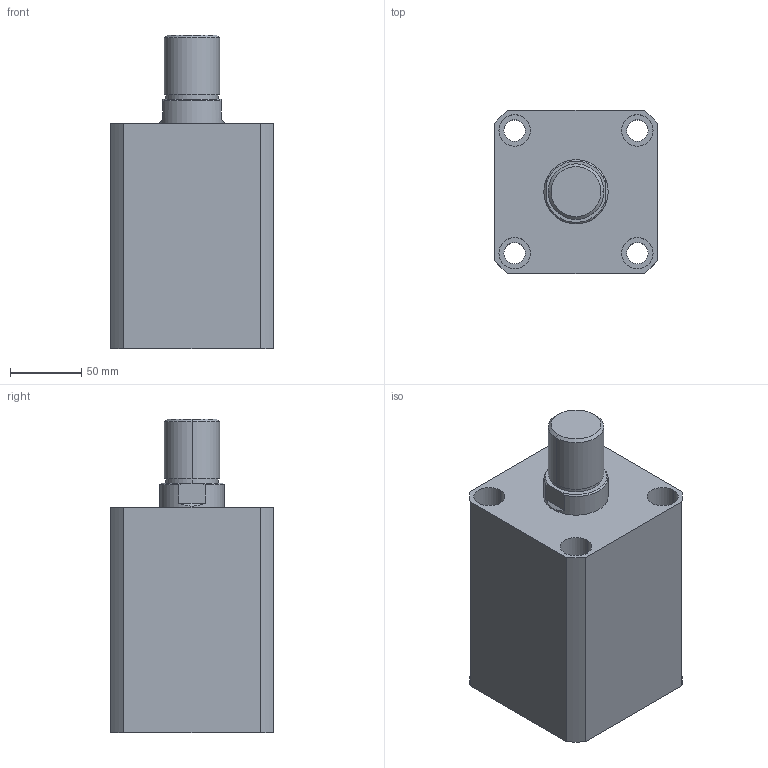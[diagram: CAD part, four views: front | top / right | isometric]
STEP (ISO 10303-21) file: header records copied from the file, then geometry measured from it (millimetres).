
FILE_DESCRIPTION (( 'STEP AP203' ), '1' );
FILE_NAME ('HTB-SDMB80-80W.STEP', '2019-10-09T06:11:59', ( '微软用户' ), ( '微软中国' ), 'SwSTEP 2.0', 'SolidWorks 2012', '' );
FILE_SCHEMA (( 'CONFIG_CONTROL_DESIGN' ));
Length unit declared in the file: millimetre
Products named in the file (3): HTB-SDMB80-80掛极; HTB-SDMB80-80W活塞杆; HTB-SDMB80-80W
Assembly tree (2 placements, depth 2):
  HTB-SDMB80-80W
    HTB-SDMB80-80掛极
    HTB-SDMB80-80W活塞杆
Bounding box: 114 x 114 x 220 mm (x, y, z)
Volume: 1696158.4 mm3; surface area: 206770 mm2
Topology: 2 solids, 2 shells, 141 faces, 337 edges, 222 vertices
Faces by surface type: plane 67, cylinder 48, bspline 16, torus 6, cone 4
Entity records: 5180 total; most frequent: CARTESIAN_POINT 1597, ORIENTED_EDGE 674, DIRECTION 669, EDGE_CURVE 337, AXIS2_PLACEMENT_3D 242, VERTEX_POINT 222, LINE 185, VECTOR 185
